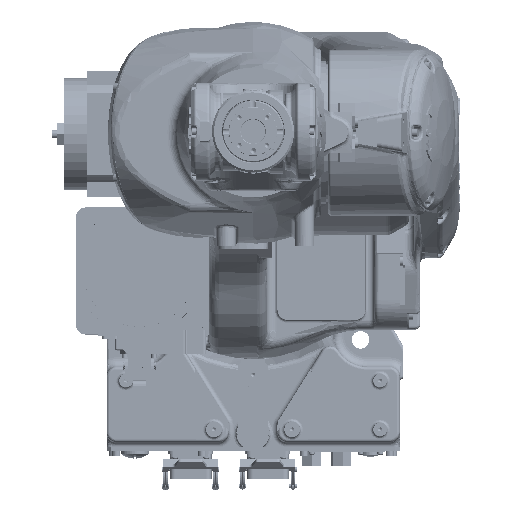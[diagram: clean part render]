
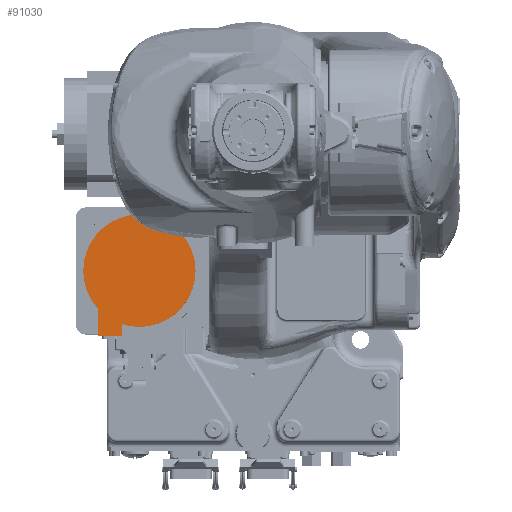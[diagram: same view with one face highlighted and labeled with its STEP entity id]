
A CAD part, top view. The second image highlights one B-rep face of the part: STEP entity #91030.
In plain terms, the highlighted planar face has unit normal (0, 0, 1).
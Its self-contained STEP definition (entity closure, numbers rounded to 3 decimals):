
#90975=CARTESIAN_POINT('Axis2P3D Location',(-116.314,-40.,1.)) ;
#90980=CARTESIAN_POINT('Axis2P3D Location',(-116.314,-40.,1.)) ;
#90984=CARTESIAN_POINT('Vertex',(-173.814,-40.,1.)) ;
#90986=CARTESIAN_POINT('Vertex',(-58.814,-40.,1.)) ;
#90989=CARTESIAN_POINT('Axis2P3D Location',(-116.314,-40.,1.)) ;
#90993=CARTESIAN_POINT('Vertex',(-158.314,-79.271,1.)) ;
#90996=CARTESIAN_POINT('Line Origine',(-158.314,-93.136,1.)) ;
#91000=CARTESIAN_POINT('Vertex',(-158.314,-107.,1.)) ;
#91003=CARTESIAN_POINT('Line Origine',(-146.314,-107.,1.)) ;
#91007=CARTESIAN_POINT('Vertex',(-134.314,-107.,1.)) ;
#91010=CARTESIAN_POINT('Line Origine',(-134.314,-100.805,1.)) ;
#91014=CARTESIAN_POINT('Vertex',(-134.314,-94.61,1.)) ;
#91017=CARTESIAN_POINT('Axis2P3D Location',(-116.314,-40.,1.)) ;
#90976=DIRECTION('Axis2P3D Direction',(0.,0.,1.)) ;
#90977=DIRECTION('Axis2P3D XDirection',(-1.,0.,0.)) ;
#90981=DIRECTION('Axis2P3D Direction',(0.,0.,1.)) ;
#90990=DIRECTION('Axis2P3D Direction',(0.,0.,1.)) ;
#90997=DIRECTION('Vector Direction',(0.,1.,0.)) ;
#91004=DIRECTION('Vector Direction',(-1.,0.,0.)) ;
#91011=DIRECTION('Vector Direction',(0.,-1.,0.)) ;
#91018=DIRECTION('Axis2P3D Direction',(0.,0.,1.)) ;
#90978=AXIS2_PLACEMENT_3D('Plane Axis2P3D',#90975,#90976,#90977) ;
#90982=AXIS2_PLACEMENT_3D('Circle Axis2P3D',#90980,#90981,$) ;
#90991=AXIS2_PLACEMENT_3D('Circle Axis2P3D',#90989,#90990,$) ;
#91019=AXIS2_PLACEMENT_3D('Circle Axis2P3D',#91017,#91018,$) ;
#91023=ORIENTED_EDGE('',*,*,#90988,.F.) ;
#91024=ORIENTED_EDGE('',*,*,#90995,.T.) ;
#91025=ORIENTED_EDGE('',*,*,#91002,.F.) ;
#91026=ORIENTED_EDGE('',*,*,#91009,.T.) ;
#91027=ORIENTED_EDGE('',*,*,#91016,.F.) ;
#91028=ORIENTED_EDGE('',*,*,#91021,.T.) ;
#90998=VECTOR('Line Direction',#90997,1.) ;
#91005=VECTOR('Line Direction',#91004,1.) ;
#91012=VECTOR('Line Direction',#91011,1.) ;
#91030=ADVANCED_FACE('MOTOR',(#91029),#90979,.T.) ;
#90983=CIRCLE('generated circle',#90982,57.5) ;
#90992=CIRCLE('generated circle',#90991,57.5) ;
#91020=CIRCLE('generated circle',#91019,57.5) ;
#90988=EDGE_CURVE('',#90985,#90987,#90983,.F.) ;
#90995=EDGE_CURVE('',#90985,#90994,#90992,.T.) ;
#91002=EDGE_CURVE('',#91001,#90994,#90999,.T.) ;
#91009=EDGE_CURVE('',#91001,#91008,#91006,.F.) ;
#91016=EDGE_CURVE('',#91015,#91008,#91013,.T.) ;
#91021=EDGE_CURVE('',#91015,#90987,#91020,.T.) ;
#91022=EDGE_LOOP('',(#91023,#91024,#91025,#91026,#91027,#91028)) ;
#91029=FACE_OUTER_BOUND('',#91022,.T.) ;
#90999=LINE('Line',#90996,#90998) ;
#91006=LINE('Line',#91003,#91005) ;
#91013=LINE('Line',#91010,#91012) ;
#90979=PLANE('',#90978) ;
#90985=VERTEX_POINT('',#90984) ;
#90987=VERTEX_POINT('',#90986) ;
#90994=VERTEX_POINT('',#90993) ;
#91001=VERTEX_POINT('',#91000) ;
#91008=VERTEX_POINT('',#91007) ;
#91015=VERTEX_POINT('',#91014) ;
